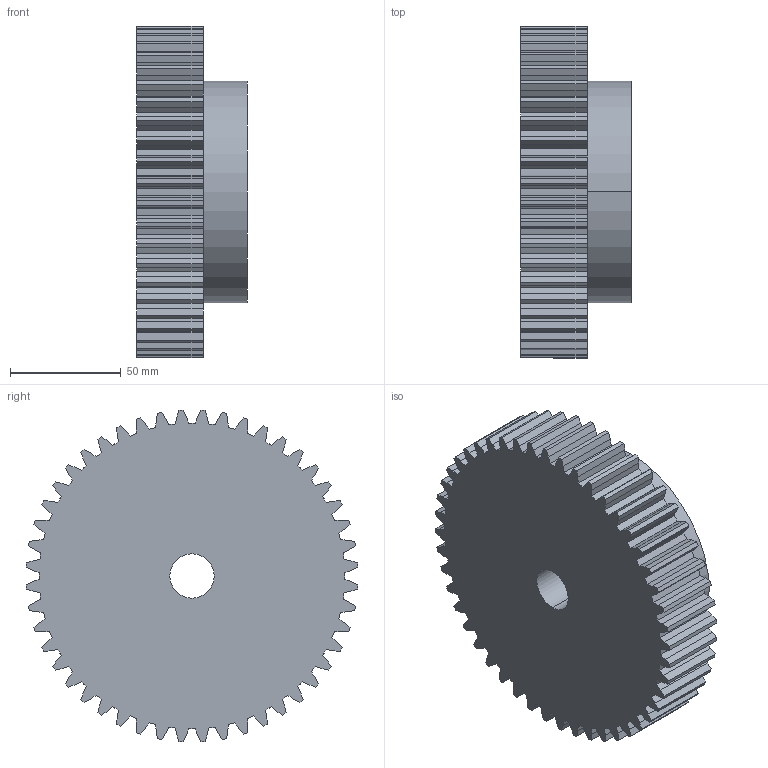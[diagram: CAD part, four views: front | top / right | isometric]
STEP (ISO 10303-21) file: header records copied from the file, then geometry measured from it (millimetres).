
FILE_DESCRIPTION (( 'STEP AP203' ), '1' );
FILE_NAME ('PM 30048.STEP', '2013-09-25T14:09:48', ( '' ), ( '' ), 'SwSTEP 2.0', 'SolidWorks 2010', '' );
FILE_SCHEMA (( 'CONFIG_CONTROL_DESIGN' ));
Length unit declared in the file: millimetre
Products named in the file (1): PM 30048
Bounding box: 50 x 149.8 x 149.8 mm (x, y, z)
Volume: 625768.3 mm3; surface area: 66702 mm2
Topology: 1 solids, 1 shells, 295 faces, 876 edges, 584 vertices
Faces by surface type: plane 195, cylinder 100
Entity records: 10143 total; most frequent: CARTESIAN_POINT 2590, ORIENTED_EDGE 1752, DIRECTION 1304, EDGE_CURVE 876, VERTEX_POINT 584, VECTOR 484, LINE 484, AXIS2_PLACEMENT_3D 410
